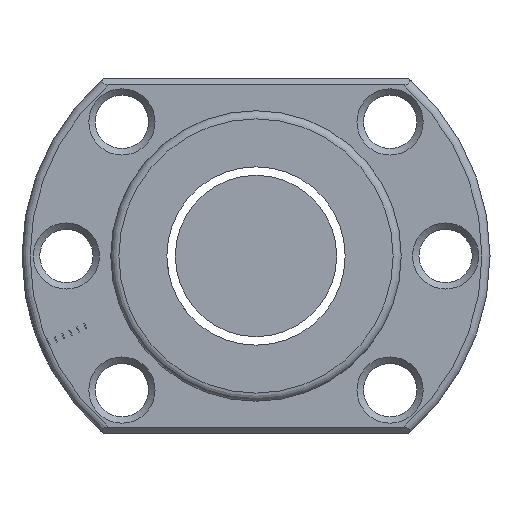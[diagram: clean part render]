
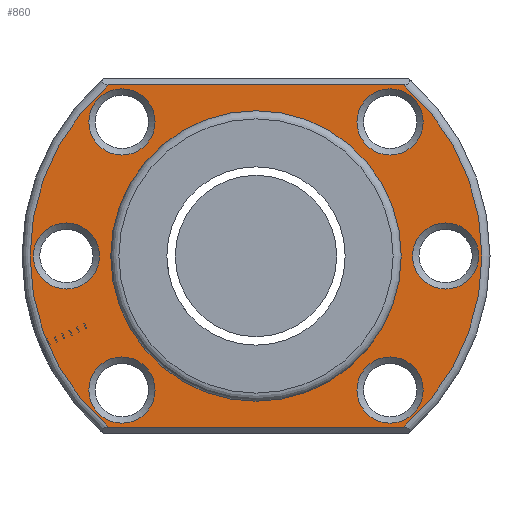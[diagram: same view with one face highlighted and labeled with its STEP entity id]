
A CAD part, left-side view. The second image highlights one B-rep face of the part: STEP entity #860.
In plain terms, the highlighted planar face has unit normal (-1, 0, 0).
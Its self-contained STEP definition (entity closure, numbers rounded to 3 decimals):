
#46 = AXIS2_PLACEMENT_3D ( 'NONE', #2880, #2144, #1585 ) ;
#72 = CARTESIAN_POINT ( 'NONE',  ( -65., 0., 0. ) ) ;
#107 = DIRECTION ( 'NONE',  ( -1., 0., 0. ) ) ;
#142 = EDGE_LOOP ( 'NONE', ( #675 ) ) ;
#149 = CIRCLE ( 'NONE', #1644, 28. ) ;
#150 = CARTESIAN_POINT ( 'NONE',  ( -65., 0., 0. ) ) ;
#152 = DIRECTION ( 'NONE',  ( -1., 0., 0. ) ) ;
#240 = EDGE_CURVE ( 'NONE', #2660, #1311, #149, .T. ) ;
#260 = DIRECTION ( 'NONE',  ( 1., 0., 0. ) ) ;
#265 = CARTESIAN_POINT ( 'NONE',  ( -65., 18.291, -21.2 ) ) ;
#273 = ORIENTED_EDGE ( 'NONE', *, *, #240, .T. ) ;
#331 = CARTESIAN_POINT ( 'NONE',  ( -65., -16.617, 16.617 ) ) ;
#339 = AXIS2_PLACEMENT_3D ( 'NONE', #590, #1582, #2300 ) ;
#410 = FACE_BOUND ( 'NONE', #3070, .T. ) ;
#455 = CARTESIAN_POINT ( 'NONE',  ( -65., 18.291, 21.2 ) ) ;
#461 = VERTEX_POINT ( 'NONE', #930 ) ;
#488 = EDGE_CURVE ( 'NONE', #1611, #1611, #1808, .T. ) ;
#590 = CARTESIAN_POINT ( 'NONE',  ( -65., 16.617, 16.617 ) ) ;
#608 = CARTESIAN_POINT ( 'NONE',  ( -65., 23.5, 4.1 ) ) ;
#638 = CARTESIAN_POINT ( 'NONE',  ( -65., 0., -18. ) ) ;
#671 = VERTEX_POINT ( 'NONE', #2885 ) ;
#675 = ORIENTED_EDGE ( 'NONE', *, *, #2928, .T. ) ;
#738 = CARTESIAN_POINT ( 'NONE',  ( -65., -16.617, -16.617 ) ) ;
#804 = CARTESIAN_POINT ( 'NONE',  ( -65., 0., 0. ) ) ;
#839 = DIRECTION ( 'NONE',  ( 1., 0., 0. ) ) ;
#860 = ADVANCED_FACE ( 'NONE', ( #1171, #1424, #927, #2174, #410, #2408, #1669, #1932 ), #2422, .T. ) ;
#868 = VECTOR ( 'NONE', #1167, 1000. ) ;
#891 = EDGE_LOOP ( 'NONE', ( #273, #1102, #2884, #2828 ) ) ;
#900 = EDGE_CURVE ( 'NONE', #1843, #1843, #1956, .T. ) ;
#927 = FACE_BOUND ( 'NONE', #2543, .T. ) ;
#930 = CARTESIAN_POINT ( 'NONE',  ( -65., -16.617, 20.717 ) ) ;
#1025 = AXIS2_PLACEMENT_3D ( 'NONE', #2580, #839, #2267 ) ;
#1068 = EDGE_LOOP ( 'NONE', ( #2482 ) ) ;
#1097 = CARTESIAN_POINT ( 'NONE',  ( -65., -16.617, -12.517 ) ) ;
#1102 = ORIENTED_EDGE ( 'NONE', *, *, #1202, .T. ) ;
#1125 = CIRCLE ( 'NONE', #3054, 4.1 ) ;
#1137 = DIRECTION ( 'NONE',  ( 0., 0., 1. ) ) ;
#1143 = VERTEX_POINT ( 'NONE', #2426 ) ;
#1167 = DIRECTION ( 'NONE',  ( 0., 1., 0. ) ) ;
#1171 = FACE_BOUND ( 'NONE', #1630, .T. ) ;
#1202 = EDGE_CURVE ( 'NONE', #1311, #1209, #3194, .T. ) ;
#1209 = VERTEX_POINT ( 'NONE', #2942 ) ;
#1246 = ORIENTED_EDGE ( 'NONE', *, *, #2836, .T. ) ;
#1248 = DIRECTION ( 'NONE',  ( 0., 0., -1. ) ) ;
#1301 = ORIENTED_EDGE ( 'NONE', *, *, #900, .T. ) ;
#1311 = VERTEX_POINT ( 'NONE', #265 ) ;
#1394 = DIRECTION ( 'NONE',  ( 0., 0., 1. ) ) ;
#1424 = FACE_BOUND ( 'NONE', #3044, .T. ) ;
#1427 = EDGE_CURVE ( 'NONE', #2334, #2334, #1125, .T. ) ;
#1523 = DIRECTION ( 'NONE',  ( 1., 0., 0. ) ) ;
#1530 = EDGE_CURVE ( 'NONE', #2838, #2838, #1807, .T. ) ;
#1582 = DIRECTION ( 'NONE',  ( 1., 0., 0. ) ) ;
#1585 = DIRECTION ( 'NONE',  ( 0., 0., 1. ) ) ;
#1590 = VERTEX_POINT ( 'NONE', #2820 ) ;
#1611 = VERTEX_POINT ( 'NONE', #638 ) ;
#1630 = EDGE_LOOP ( 'NONE', ( #2379 ) ) ;
#1644 = AXIS2_PLACEMENT_3D ( 'NONE', #150, #107, #1137 ) ;
#1669 = FACE_BOUND ( 'NONE', #2199, .T. ) ;
#1722 = DIRECTION ( 'NONE',  ( 1., 0., 0. ) ) ;
#1754 = DIRECTION ( 'NONE',  ( 0., 0., 1. ) ) ;
#1807 = CIRCLE ( 'NONE', #1025, 4.1 ) ;
#1808 = CIRCLE ( 'NONE', #2737, 18. ) ;
#1843 = VERTEX_POINT ( 'NONE', #3078 ) ;
#1904 = CIRCLE ( 'NONE', #2946, 4.1 ) ;
#1932 = FACE_OUTER_BOUND ( 'NONE', #891, .T. ) ;
#1956 = CIRCLE ( 'NONE', #46, 4.1 ) ;
#1976 = LINE ( 'NONE', #2969, #868 ) ;
#2005 = CIRCLE ( 'NONE', #2843, 4.1 ) ;
#2020 = EDGE_CURVE ( 'NONE', #671, #671, #2769, .T. ) ;
#2144 = DIRECTION ( 'NONE',  ( 1., 0., 0. ) ) ;
#2148 = ORIENTED_EDGE ( 'NONE', *, *, #1530, .T. ) ;
#2174 = FACE_BOUND ( 'NONE', #1068, .T. ) ;
#2199 = EDGE_LOOP ( 'NONE', ( #2776 ) ) ;
#2200 = EDGE_CURVE ( 'NONE', #1209, #1590, #2249, .T. ) ;
#2242 = DIRECTION ( 'NONE',  ( 0., -1., 0. ) ) ;
#2249 = CIRCLE ( 'NONE', #2508, 28. ) ;
#2267 = DIRECTION ( 'NONE',  ( 0., 0., 1. ) ) ;
#2280 = CARTESIAN_POINT ( 'NONE',  ( -65., 16.617, -16.617 ) ) ;
#2300 = DIRECTION ( 'NONE',  ( 0., 0., 1. ) ) ;
#2330 = DIRECTION ( 'NONE',  ( -1., 0., 0. ) ) ;
#2334 = VERTEX_POINT ( 'NONE', #1097 ) ;
#2379 = ORIENTED_EDGE ( 'NONE', *, *, #1427, .T. ) ;
#2408 = FACE_BOUND ( 'NONE', #142, .T. ) ;
#2422 = PLANE ( 'NONE',  #3197 ) ;
#2426 = CARTESIAN_POINT ( 'NONE',  ( -65., 16.617, -12.517 ) ) ;
#2482 = ORIENTED_EDGE ( 'NONE', *, *, #2020, .T. ) ;
#2486 = CARTESIAN_POINT ( 'NONE',  ( -65., 29., -21.2 ) ) ;
#2508 = AXIS2_PLACEMENT_3D ( 'NONE', #804, #2330, #1754 ) ;
#2518 = DIRECTION ( 'NONE',  ( 0., 0., 1. ) ) ;
#2543 = EDGE_LOOP ( 'NONE', ( #1246 ) ) ;
#2556 = DIRECTION ( 'NONE',  ( 1., 0., 0. ) ) ;
#2580 = CARTESIAN_POINT ( 'NONE',  ( -65., 23.5, 0. ) ) ;
#2638 = VECTOR ( 'NONE', #2242, 1000. ) ;
#2660 = VERTEX_POINT ( 'NONE', #455 ) ;
#2717 = DIRECTION ( 'NONE',  ( 0., 0., 1. ) ) ;
#2737 = AXIS2_PLACEMENT_3D ( 'NONE', #72, #260, #1248 ) ;
#2769 = CIRCLE ( 'NONE', #339, 4.1 ) ;
#2776 = ORIENTED_EDGE ( 'NONE', *, *, #488, .T. ) ;
#2820 = CARTESIAN_POINT ( 'NONE',  ( -65., -18.291, 21.2 ) ) ;
#2821 = CARTESIAN_POINT ( 'NONE',  ( -65., 29., 0. ) ) ;
#2828 = ORIENTED_EDGE ( 'NONE', *, *, #3036, .T. ) ;
#2836 = EDGE_CURVE ( 'NONE', #461, #461, #1904, .T. ) ;
#2838 = VERTEX_POINT ( 'NONE', #608 ) ;
#2843 = AXIS2_PLACEMENT_3D ( 'NONE', #2280, #1523, #2518 ) ;
#2880 = CARTESIAN_POINT ( 'NONE',  ( -65., -23.5, 0. ) ) ;
#2884 = ORIENTED_EDGE ( 'NONE', *, *, #2200, .T. ) ;
#2885 = CARTESIAN_POINT ( 'NONE',  ( -65., 16.617, 20.717 ) ) ;
#2928 = EDGE_CURVE ( 'NONE', #1143, #1143, #2005, .T. ) ;
#2942 = CARTESIAN_POINT ( 'NONE',  ( -65., -18.291, -21.2 ) ) ;
#2946 = AXIS2_PLACEMENT_3D ( 'NONE', #331, #2556, #2991 ) ;
#2969 = CARTESIAN_POINT ( 'NONE',  ( -65., 29., 21.2 ) ) ;
#2991 = DIRECTION ( 'NONE',  ( 0., 0., 1. ) ) ;
#3036 = EDGE_CURVE ( 'NONE', #1590, #2660, #1976, .T. ) ;
#3044 = EDGE_LOOP ( 'NONE', ( #1301 ) ) ;
#3054 = AXIS2_PLACEMENT_3D ( 'NONE', #738, #1722, #2717 ) ;
#3070 = EDGE_LOOP ( 'NONE', ( #2148 ) ) ;
#3078 = CARTESIAN_POINT ( 'NONE',  ( -65., -23.5, 4.1 ) ) ;
#3194 = LINE ( 'NONE', #2486, #2638 ) ;
#3197 = AXIS2_PLACEMENT_3D ( 'NONE', #2821, #152, #1394 ) ;
